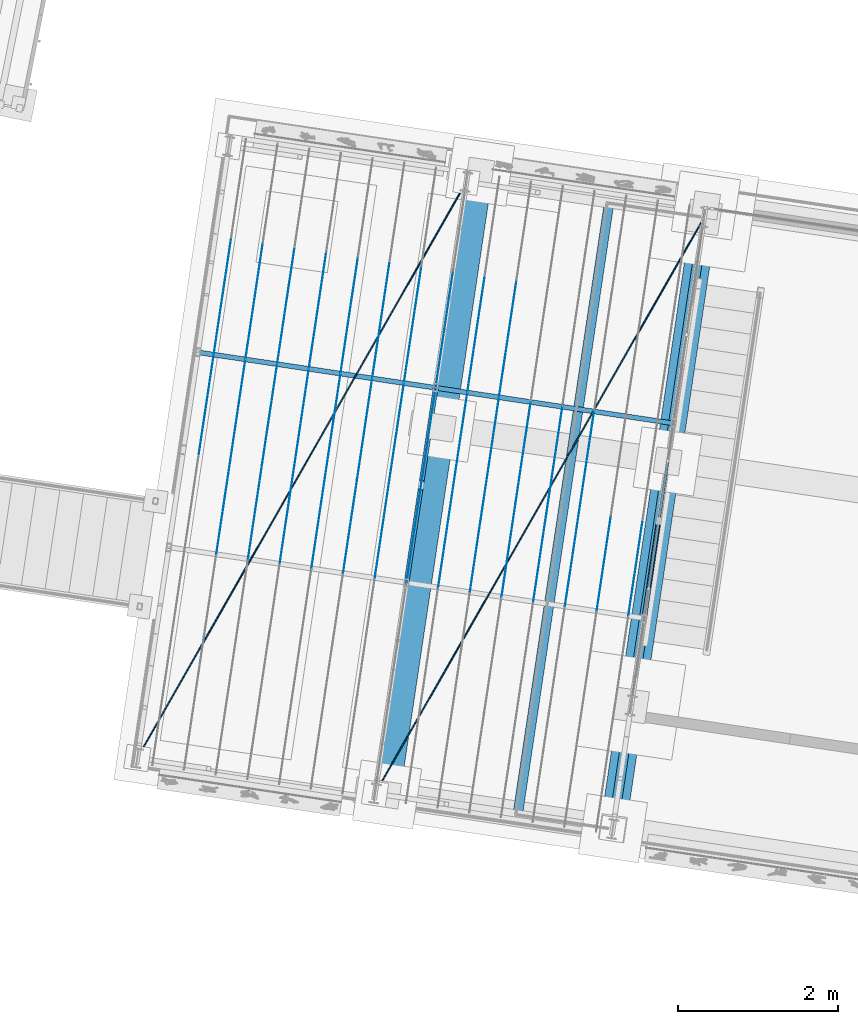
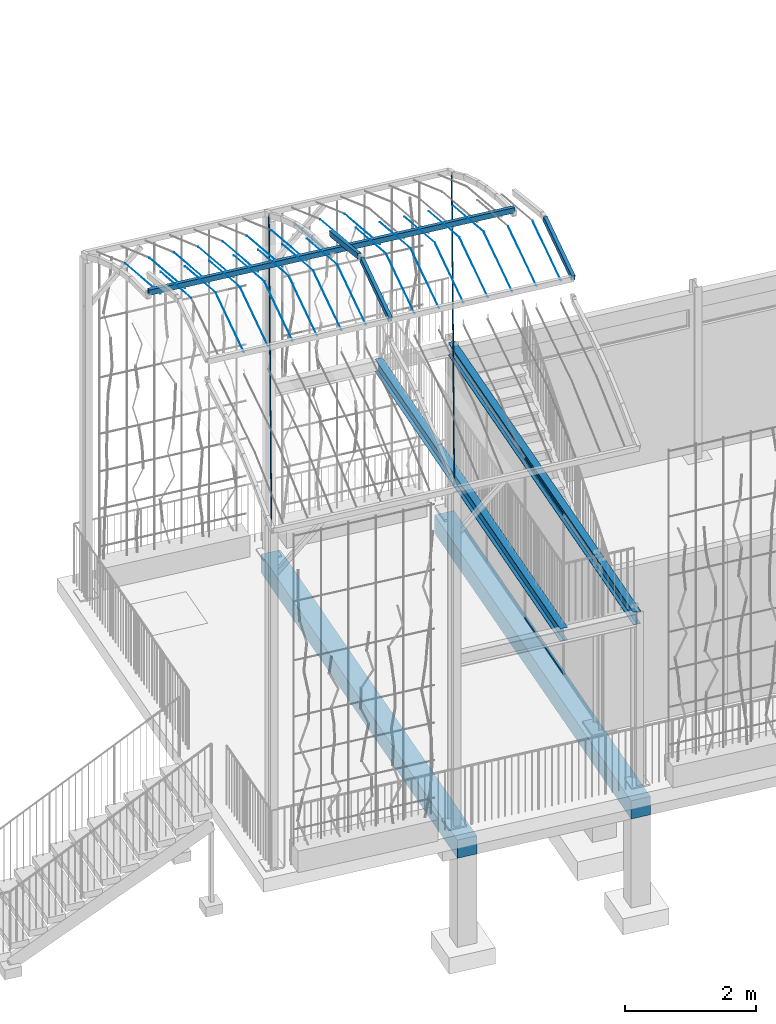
# One storey, part 28 of 142: 44 members, 5 beams, 2 elements without a shape of their own.
"""IFC4 building model written with IfcOpenShell, lengths in metres."""

from ifc_helpers import new_model, si_unit, direction, frame, origin_with_axes, place, context, subcontext, project, spatial, polyline, rectangle, hollow_rectangle, circle, i_section, outline, extrude, material, material_profile, profile_set, profile_usage, type_object, element, aggregate, save


model = new_model("IFC4")

# Units and contexts
model_context = context("Model", 3, precision=1e-05, world=origin_with_axes(), true_north=direction((0.0, 1.0)))
body_context = subcontext(model_context, "Body", "Model", "MODEL_VIEW")
ifc_project = project(units=[si_unit("LENGTHUNIT", "METRE"), si_unit("AREAUNIT", "SQUARE_METRE"), si_unit("VOLUMEUNIT", "CUBIC_METRE")], contexts=[model_context])

# Site, building, storey
site_placement = place(None, origin_with_axes())
site = spatial("IfcSite", under=ifc_project, at=site_placement, Name="Lares · Rua das Mercês · artigo 4771")
building_placement = place(site_placement, frame((15.0, 9.7, 14.65), z_axis=(0.0, 0.0, 1.0), x_axis=(0.989015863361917, -0.147809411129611, 0.0)))
building = spatial("IfcBuilding", under=site, at=building_placement, Name="Casa Sobreposta")
storey_placement = place(building_placement, origin_with_axes())
storey = spatial("IfcBuildingStorey", under=building, at=storey_placement, Name="00 · Habitação e estacionamento", Elevation=14.65)

# Assembly, beams
assembly_1_placement = place(storey_placement, origin_with_axes())
assembly_1 = element("IfcElementAssembly", 1, at=assembly_1_placement, inside=storey, Name="Pérgola · prolongamento da estufa 6 m", ObjectType="PERGOLA_GREENHOUSE_EXTENSION", PredefinedType="USERDEFINED")
ifc_material_1 = material(Name="Aço pintado / Stahl lackiert", Category="steel")
ifc_material_profile_1 = material_profile(ifc_material_1, i_section(OverallWidth=0.12, OverallDepth=0.24, WebThickness=0.0062, FlangeThickness=0.0098))
ifc_profile_set_1 = profile_set([ifc_material_profile_1], Name="IPE240")
ifc_profile_usage_1 = profile_usage(ifc_profile_set_1)
beam_type_1 = type_object("IfcBeamType", Name="IPE240 / steel", PredefinedType="NOTDEFINED", material=ifc_profile_set_1)
beam_1_placement = place(assembly_1_placement, frame((-1.2, -1.44, 3.02), z_axis=(0.0, 1.0, 0.0), x_axis=(1.0, 0.0, 0.0)))
beam_1 = element("IfcBeam", 2, at=beam_1_placement, type_object=beam_type_1, material=ifc_profile_usage_1, Name="Varanda · viga transversal", context=body_context, shape_type="SweptSolid", body=[
    extrude(i_section(OverallWidth=0.12, OverallDepth=0.24, WebThickness=0.0062, FlangeThickness=0.0098), origin_with_axes(), (0.0, 0.0, 1.0), 7.72),
])
ifc_profile_usage_2 = profile_usage(ifc_profile_set_1)
beam_2_placement = place(assembly_1_placement, frame((0.0, -1.44, 3.02), z_axis=(0.0, 1.0, 0.0), x_axis=(1.0, 0.0, 0.0)))
beam_2 = element("IfcBeam", 3, at=beam_2_placement, type_object=beam_type_1, material=ifc_profile_usage_2, Name="Varanda · viga transversal", context=body_context, shape_type="SweptSolid", body=[
    extrude(i_section(OverallWidth=0.12, OverallDepth=0.24, WebThickness=0.0062, FlangeThickness=0.0098), origin_with_axes(), (0.0, 0.0, 1.0), 7.72),
])

# Members
ifc_material_profile_2 = material_profile(ifc_material_1, rectangle(XDim=0.035, YDim=0.035))
ifc_profile_set_2 = profile_set([ifc_material_profile_2], Name="R0.035")
ifc_profile_usage_3 = profile_usage(ifc_profile_set_2)
member_type_1 = type_object("IfcMemberType", Name="R0.035 / steel", PredefinedType="NOTDEFINED", material=ifc_profile_set_2)
member_1_placement = place(storey_placement, frame((0.0, 1.6, 0.0), z_axis=(0.0, 1.0, 0.0), x_axis=(1.0, 0.0, 0.0)))
element("IfcMember", 4, at=member_1_placement, inside=storey, type_object=member_type_1, material=ifc_profile_usage_3, Name="Fachada poente integralmente envidraçada · módulo 2 · travessa", context=body_context, shape_type="SweptSolid", body=[
    extrude(rectangle(XDim=0.035, YDim=0.035), origin_with_axes(), (0.0, 0.0, 1.0), 1.6),
])
ifc_profile_usage_4 = profile_usage(ifc_profile_set_2)
member_2_placement = place(storey_placement, frame((0.0, 1.6, 2.968), z_axis=(0.0, 1.0, 0.0), x_axis=(1.0, 0.0, 0.0)))
element("IfcMember", 5, at=member_2_placement, inside=storey, type_object=member_type_1, material=ifc_profile_usage_4, Name="Fachada poente integralmente envidraçada · módulo 2 · travessa", context=body_context, shape_type="SweptSolid", body=[
    extrude(rectangle(XDim=0.035, YDim=0.035), origin_with_axes(), (0.0, 0.0, 1.0), 1.6),
])

# Member
ifc_material_profile_3 = material_profile(ifc_material_1, hollow_rectangle(XDim=0.06, YDim=0.1, WallThickness=0.004))
ifc_profile_set_3 = profile_set([ifc_material_profile_3], Name="RHS100x60x4")
ifc_profile_usage_5 = profile_usage(ifc_profile_set_3)
member_type_2 = type_object("IfcMemberType", Name="RHS100x60x4 / steel", PredefinedType="NOTDEFINED", material=ifc_profile_set_3)
member_3_placement = place(assembly_1_placement, frame((-3.0, 1.22042020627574, 7.62067689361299), z_axis=(0.0, 0.960073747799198, 0.279747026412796), x_axis=(1.0, 0.0, 0.0)))
member_3 = element("IfcMember", 6, at=member_3_placement, type_object=member_type_2, material=ifc_profile_usage_5, Name="Pérgola · arco contínuo com a estufa", context=body_context, shape_type="SweptSolid", body=[
    extrude(hollow_rectangle(XDim=0.06, YDim=0.1, WallThickness=0.004), origin_with_axes(), (0.0, 0.0, 1.0), 1.23148937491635),
])

ifc_profile_usage_6 = profile_usage(ifc_profile_set_3)
member_4_placement = place(assembly_1_placement, frame((-3.0, 2.49770027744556, 7.96518238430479), z_axis=(0.0, 0.96007374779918, -0.279747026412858), x_axis=(1.0, 0.0, 0.0)))
member_4 = element("IfcMember", 7, at=member_4_placement, type_object=member_type_2, material=ifc_profile_usage_6, Name="Pérgola · arco contínuo com a estufa", context=body_context, shape_type="SweptSolid", body=[
    extrude(hollow_rectangle(XDim=0.06, YDim=0.1, WallThickness=0.004), origin_with_axes(), (0.0, 0.0, 1.0), 1.23148937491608),
])

ifc_profile_usage_7 = profile_usage(ifc_profile_set_3)
member_5_placement = place(assembly_1_placement, frame((0.0, 1.22042020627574, 7.62067689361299), z_axis=(0.0, 0.960073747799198, 0.279747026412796), x_axis=(1.0, 0.0, 0.0)))
member_5 = element("IfcMember", 8, at=member_5_placement, type_object=member_type_2, material=ifc_profile_usage_7, Name="Pérgola · arco contínuo com a estufa", context=body_context, shape_type="SweptSolid", body=[
    extrude(hollow_rectangle(XDim=0.06, YDim=0.1, WallThickness=0.004), origin_with_axes(), (0.0, 0.0, 1.0), 1.23148937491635),
])

# Beam
ifc_material_profile_4 = material_profile(ifc_material_1, hollow_rectangle(XDim=0.06, YDim=0.1, WallThickness=0.004))
ifc_profile_set_4 = profile_set([ifc_material_profile_4], Name="RHS100x60x4")
ifc_profile_usage_8 = profile_usage(ifc_profile_set_4)
beam_type_2 = type_object("IfcBeamType", Name="RHS100x60x4 / steel", PredefinedType="NOTDEFINED", material=ifc_profile_set_4)
beam_3_placement = place(assembly_1_placement, frame((-6.0, 3.68002089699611, 7.30067689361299), z_axis=(1.0, 0.0, 0.0), x_axis=(0.0, -1.0, 0.0)))
beam_3 = element("IfcBeam", 9, at=beam_3_placement, type_object=beam_type_2, material=ifc_profile_usage_8, Name="Pérgola · terça", context=body_context, shape_type="SweptSolid", body=[
    extrude(hollow_rectangle(XDim=0.06, YDim=0.1, WallThickness=0.004), origin_with_axes(), (0.0, 0.0, 1.0), 6.0),
])

# Member
ifc_material_profile_5 = material_profile(ifc_material_1, circle(Radius=0.008))
ifc_profile_set_5 = profile_set([ifc_material_profile_5], Name="D0.016")
ifc_profile_usage_9 = profile_usage(ifc_profile_set_5)
member_type_3 = type_object("IfcMemberType", Name="D0.016 / steel", PredefinedType="NOTDEFINED", material=ifc_profile_set_5)
member_6_placement = place(assembly_1_placement, frame((-6.0, -1.44, 6.28), z_axis=(0.362213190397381, 0.932095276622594, 0.0), x_axis=(0.932095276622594, -0.362213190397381, 0.0)))
member_6 = element("IfcMember", 10, at=member_6_placement, type_object=member_type_3, material=ifc_profile_usage_9, Name="Pérgola · tirante em cobertura", context=body_context, shape_type="SweptSolid", body=[
    extrude(circle(Radius=0.008), origin_with_axes(), (0.0, 0.0, 1.0), 8.28241510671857),
])

ifc_profile_usage_10 = profile_usage(ifc_profile_set_5)
member_7_placement = place(assembly_1_placement, frame((-3.0, -1.44, 6.28), z_axis=(0.362213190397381, 0.932095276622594, 0.0), x_axis=(0.932095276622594, -0.362213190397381, 0.0)))
member_7 = element("IfcMember", 11, at=member_7_placement, type_object=member_type_3, material=ifc_profile_usage_10, Name="Pérgola · tirante em cobertura", context=body_context, shape_type="SweptSolid", body=[
    extrude(circle(Radius=0.008), origin_with_axes(), (0.0, 0.0, 1.0), 8.28241510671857),
])

ifc_material_2 = material(Name="Aço galvanizado / Stahl verzinkt", Category="steel")
ifc_material_profile_6 = material_profile(ifc_material_2, circle(Radius=0.002))
ifc_profile_set_6 = profile_set([ifc_material_profile_6], Name="D0.004")
ifc_profile_usage_11 = profile_usage(ifc_profile_set_6)
member_type_4 = type_object("IfcMemberType", Name="D0.004 / galvanized", PredefinedType="NOTDEFINED", material=ifc_profile_set_6)
member_8_placement = place(assembly_1_placement, frame((-5.8, 2.40274082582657, 7.96518238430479), z_axis=(0.0, 0.965497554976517, -0.260412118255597), x_axis=(1.0, 0.0, 0.0)))
member_8 = element("IfcMember", 12, at=member_8_placement, type_object=member_type_4, material=ifc_profile_usage_11, Name="Pérgola · fio para trepadeiras", context=body_context, shape_type="SweptSolid", body=[
    extrude(circle(Radius=0.002), origin_with_axes(), (0.0, 0.0, 1.0), 1.32292419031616),
])

ifc_profile_usage_12 = profile_usage(ifc_profile_set_6)
member_9_placement = place(assembly_1_placement, frame((-5.8, 3.68573096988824, 7.21327919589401), z_axis=(0.0, 0.965357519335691, -0.260930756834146), x_axis=(1.0, 0.0, 0.0)))
member_9 = element("IfcMember", 13, at=member_9_placement, type_object=member_type_4, material=ifc_profile_usage_12, Name="Pérgola · fio para trepadeiras", context=body_context, shape_type="SweptSolid", body=[
    extrude(circle(Radius=0.002), origin_with_axes(), (0.0, 0.0, 1.0), 1.523553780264),
])

ifc_profile_usage_13 = profile_usage(ifc_profile_set_6)
member_10_placement = place(assembly_1_placement, frame((-5.4, 1.22042020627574, 7.62067689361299), z_axis=(0.0, 0.960073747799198, 0.279747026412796), x_axis=(1.0, 0.0, 0.0)))
member_10 = element("IfcMember", 14, at=member_10_placement, type_object=member_type_4, material=ifc_profile_usage_13, Name="Pérgola · fio para trepadeiras", context=body_context, shape_type="SweptSolid", body=[
    extrude(circle(Radius=0.002), origin_with_axes(), (0.0, 0.0, 1.0), 1.23148937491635),
])

ifc_profile_usage_14 = profile_usage(ifc_profile_set_6)
member_11_placement = place(assembly_1_placement, frame((-5.4, 2.40274082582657, 7.96518238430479), z_axis=(0.0, 0.965497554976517, -0.260412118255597), x_axis=(1.0, 0.0, 0.0)))
member_11 = element("IfcMember", 15, at=member_11_placement, type_object=member_type_4, material=ifc_profile_usage_14, Name="Pérgola · fio para trepadeiras", context=body_context, shape_type="SweptSolid", body=[
    extrude(circle(Radius=0.002), origin_with_axes(), (0.0, 0.0, 1.0), 1.32292419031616),
])

ifc_profile_usage_15 = profile_usage(ifc_profile_set_6)
member_12_placement = place(assembly_1_placement, frame((-5.4, 3.68573096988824, 7.21327919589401), z_axis=(0.0, 0.965357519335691, -0.260930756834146), x_axis=(1.0, 0.0, 0.0)))
member_12 = element("IfcMember", 16, at=member_12_placement, type_object=member_type_4, material=ifc_profile_usage_15, Name="Pérgola · fio para trepadeiras", context=body_context, shape_type="SweptSolid", body=[
    extrude(circle(Radius=0.002), origin_with_axes(), (0.0, 0.0, 1.0), 1.523553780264),
])

ifc_profile_usage_16 = profile_usage(ifc_profile_set_6)
member_13_placement = place(assembly_1_placement, frame((-5.0, 1.22042020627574, 7.62067689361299), z_axis=(0.0, 0.960073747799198, 0.279747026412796), x_axis=(1.0, 0.0, 0.0)))
member_13 = element("IfcMember", 17, at=member_13_placement, type_object=member_type_4, material=ifc_profile_usage_16, Name="Pérgola · fio para trepadeiras", context=body_context, shape_type="SweptSolid", body=[
    extrude(circle(Radius=0.002), origin_with_axes(), (0.0, 0.0, 1.0), 1.23148937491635),
])

ifc_profile_usage_17 = profile_usage(ifc_profile_set_6)
member_14_placement = place(assembly_1_placement, frame((-5.0, 2.40274082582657, 7.96518238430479), z_axis=(0.0, 0.965497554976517, -0.260412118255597), x_axis=(1.0, 0.0, 0.0)))
member_14 = element("IfcMember", 18, at=member_14_placement, type_object=member_type_4, material=ifc_profile_usage_17, Name="Pérgola · fio para trepadeiras", context=body_context, shape_type="SweptSolid", body=[
    extrude(circle(Radius=0.002), origin_with_axes(), (0.0, 0.0, 1.0), 1.32292419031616),
])

ifc_profile_usage_18 = profile_usage(ifc_profile_set_6)
member_15_placement = place(assembly_1_placement, frame((-5.0, 3.68573096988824, 7.21327919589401), z_axis=(0.0, 0.965357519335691, -0.260930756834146), x_axis=(1.0, 0.0, 0.0)))
member_15 = element("IfcMember", 19, at=member_15_placement, type_object=member_type_4, material=ifc_profile_usage_18, Name="Pérgola · fio para trepadeiras", context=body_context, shape_type="SweptSolid", body=[
    extrude(circle(Radius=0.002), origin_with_axes(), (0.0, 0.0, 1.0), 1.523553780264),
])

ifc_profile_usage_19 = profile_usage(ifc_profile_set_6)
member_16_placement = place(assembly_1_placement, frame((-4.6, 1.22042020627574, 7.62067689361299), z_axis=(0.0, 0.960073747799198, 0.279747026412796), x_axis=(1.0, 0.0, 0.0)))
member_16 = element("IfcMember", 20, at=member_16_placement, type_object=member_type_4, material=ifc_profile_usage_19, Name="Pérgola · fio para trepadeiras", context=body_context, shape_type="SweptSolid", body=[
    extrude(circle(Radius=0.002), origin_with_axes(), (0.0, 0.0, 1.0), 1.23148937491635),
])

ifc_profile_usage_20 = profile_usage(ifc_profile_set_6)
member_17_placement = place(assembly_1_placement, frame((-4.6, 2.40274082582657, 7.96518238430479), z_axis=(0.0, 0.965497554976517, -0.260412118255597), x_axis=(1.0, 0.0, 0.0)))
member_17 = element("IfcMember", 21, at=member_17_placement, type_object=member_type_4, material=ifc_profile_usage_20, Name="Pérgola · fio para trepadeiras", context=body_context, shape_type="SweptSolid", body=[
    extrude(circle(Radius=0.002), origin_with_axes(), (0.0, 0.0, 1.0), 1.32292419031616),
])

ifc_profile_usage_21 = profile_usage(ifc_profile_set_6)
member_18_placement = place(assembly_1_placement, frame((-4.6, 3.68573096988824, 7.21327919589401), z_axis=(0.0, 0.965357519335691, -0.260930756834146), x_axis=(1.0, 0.0, 0.0)))
member_18 = element("IfcMember", 22, at=member_18_placement, type_object=member_type_4, material=ifc_profile_usage_21, Name="Pérgola · fio para trepadeiras", context=body_context, shape_type="SweptSolid", body=[
    extrude(circle(Radius=0.002), origin_with_axes(), (0.0, 0.0, 1.0), 1.523553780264),
])

ifc_profile_usage_22 = profile_usage(ifc_profile_set_6)
member_19_placement = place(assembly_1_placement, frame((-4.2, 1.22042020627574, 7.62067689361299), z_axis=(0.0, 0.960073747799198, 0.279747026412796), x_axis=(1.0, 0.0, 0.0)))
member_19 = element("IfcMember", 23, at=member_19_placement, type_object=member_type_4, material=ifc_profile_usage_22, Name="Pérgola · fio para trepadeiras", context=body_context, shape_type="SweptSolid", body=[
    extrude(circle(Radius=0.002), origin_with_axes(), (0.0, 0.0, 1.0), 1.23148937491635),
])

ifc_profile_usage_23 = profile_usage(ifc_profile_set_6)
member_20_placement = place(assembly_1_placement, frame((-4.2, 2.40274082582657, 7.96518238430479), z_axis=(0.0, 0.965497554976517, -0.260412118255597), x_axis=(1.0, 0.0, 0.0)))
member_20 = element("IfcMember", 24, at=member_20_placement, type_object=member_type_4, material=ifc_profile_usage_23, Name="Pérgola · fio para trepadeiras", context=body_context, shape_type="SweptSolid", body=[
    extrude(circle(Radius=0.002), origin_with_axes(), (0.0, 0.0, 1.0), 1.32292419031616),
])

ifc_profile_usage_24 = profile_usage(ifc_profile_set_6)
member_21_placement = place(assembly_1_placement, frame((-4.2, 3.68573096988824, 7.21327919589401), z_axis=(0.0, 0.965357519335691, -0.260930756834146), x_axis=(1.0, 0.0, 0.0)))
member_21 = element("IfcMember", 25, at=member_21_placement, type_object=member_type_4, material=ifc_profile_usage_24, Name="Pérgola · fio para trepadeiras", context=body_context, shape_type="SweptSolid", body=[
    extrude(circle(Radius=0.002), origin_with_axes(), (0.0, 0.0, 1.0), 1.523553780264),
])

ifc_profile_usage_25 = profile_usage(ifc_profile_set_6)
member_22_placement = place(assembly_1_placement, frame((-3.8, 1.22042020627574, 7.62067689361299), z_axis=(0.0, 0.960073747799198, 0.279747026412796), x_axis=(1.0, 0.0, 0.0)))
member_22 = element("IfcMember", 26, at=member_22_placement, type_object=member_type_4, material=ifc_profile_usage_25, Name="Pérgola · fio para trepadeiras", context=body_context, shape_type="SweptSolid", body=[
    extrude(circle(Radius=0.002), origin_with_axes(), (0.0, 0.0, 1.0), 1.23148937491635),
])

ifc_profile_usage_26 = profile_usage(ifc_profile_set_6)
member_23_placement = place(assembly_1_placement, frame((-3.8, 2.40274082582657, 7.96518238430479), z_axis=(0.0, 0.965497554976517, -0.260412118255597), x_axis=(1.0, 0.0, 0.0)))
member_23 = element("IfcMember", 27, at=member_23_placement, type_object=member_type_4, material=ifc_profile_usage_26, Name="Pérgola · fio para trepadeiras", context=body_context, shape_type="SweptSolid", body=[
    extrude(circle(Radius=0.002), origin_with_axes(), (0.0, 0.0, 1.0), 1.32292419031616),
])

ifc_profile_usage_27 = profile_usage(ifc_profile_set_6)
member_24_placement = place(assembly_1_placement, frame((-3.8, 3.68573096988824, 7.21327919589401), z_axis=(0.0, 0.965357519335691, -0.260930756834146), x_axis=(1.0, 0.0, 0.0)))
member_24 = element("IfcMember", 28, at=member_24_placement, type_object=member_type_4, material=ifc_profile_usage_27, Name="Pérgola · fio para trepadeiras", context=body_context, shape_type="SweptSolid", body=[
    extrude(circle(Radius=0.002), origin_with_axes(), (0.0, 0.0, 1.0), 1.523553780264),
])

ifc_profile_usage_28 = profile_usage(ifc_profile_set_6)
member_25_placement = place(assembly_1_placement, frame((-3.4, 1.22042020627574, 7.62067689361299), z_axis=(0.0, 0.960073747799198, 0.279747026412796), x_axis=(1.0, 0.0, 0.0)))
member_25 = element("IfcMember", 29, at=member_25_placement, type_object=member_type_4, material=ifc_profile_usage_28, Name="Pérgola · fio para trepadeiras", context=body_context, shape_type="SweptSolid", body=[
    extrude(circle(Radius=0.002), origin_with_axes(), (0.0, 0.0, 1.0), 1.23148937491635),
])

ifc_profile_usage_29 = profile_usage(ifc_profile_set_6)
member_26_placement = place(assembly_1_placement, frame((-3.4, 2.40274082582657, 7.96518238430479), z_axis=(0.0, 0.965497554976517, -0.260412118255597), x_axis=(1.0, 0.0, 0.0)))
member_26 = element("IfcMember", 30, at=member_26_placement, type_object=member_type_4, material=ifc_profile_usage_29, Name="Pérgola · fio para trepadeiras", context=body_context, shape_type="SweptSolid", body=[
    extrude(circle(Radius=0.002), origin_with_axes(), (0.0, 0.0, 1.0), 1.32292419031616),
])

ifc_profile_usage_30 = profile_usage(ifc_profile_set_6)
member_27_placement = place(assembly_1_placement, frame((-3.4, 3.68573096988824, 7.21327919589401), z_axis=(0.0, 0.965357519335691, -0.260930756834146), x_axis=(1.0, 0.0, 0.0)))
member_27 = element("IfcMember", 31, at=member_27_placement, type_object=member_type_4, material=ifc_profile_usage_30, Name="Pérgola · fio para trepadeiras", context=body_context, shape_type="SweptSolid", body=[
    extrude(circle(Radius=0.002), origin_with_axes(), (0.0, 0.0, 1.0), 1.523553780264),
])

ifc_profile_usage_31 = profile_usage(ifc_profile_set_6)
member_28_placement = place(assembly_1_placement, frame((-3.0, 1.22042020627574, 7.62067689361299), z_axis=(0.0, 0.960073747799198, 0.279747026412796), x_axis=(1.0, 0.0, 0.0)))
member_28 = element("IfcMember", 32, at=member_28_placement, type_object=member_type_4, material=ifc_profile_usage_31, Name="Pérgola · fio para trepadeiras", context=body_context, shape_type="SweptSolid", body=[
    extrude(circle(Radius=0.002), origin_with_axes(), (0.0, 0.0, 1.0), 1.23148937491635),
])

ifc_profile_usage_32 = profile_usage(ifc_profile_set_6)
member_29_placement = place(assembly_1_placement, frame((-3.0, 2.40274082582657, 7.96518238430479), z_axis=(0.0, 0.965497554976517, -0.260412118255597), x_axis=(1.0, 0.0, 0.0)))
member_29 = element("IfcMember", 33, at=member_29_placement, type_object=member_type_4, material=ifc_profile_usage_32, Name="Pérgola · fio para trepadeiras", context=body_context, shape_type="SweptSolid", body=[
    extrude(circle(Radius=0.002), origin_with_axes(), (0.0, 0.0, 1.0), 1.32292419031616),
])

ifc_profile_usage_33 = profile_usage(ifc_profile_set_6)
member_30_placement = place(assembly_1_placement, frame((-3.0, 3.68573096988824, 7.21327919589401), z_axis=(0.0, 0.965357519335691, -0.260930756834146), x_axis=(1.0, 0.0, 0.0)))
member_30 = element("IfcMember", 34, at=member_30_placement, type_object=member_type_4, material=ifc_profile_usage_33, Name="Pérgola · fio para trepadeiras", context=body_context, shape_type="SweptSolid", body=[
    extrude(circle(Radius=0.002), origin_with_axes(), (0.0, 0.0, 1.0), 1.523553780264),
])

ifc_profile_usage_34 = profile_usage(ifc_profile_set_6)
member_31_placement = place(assembly_1_placement, frame((-2.6, 1.22042020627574, 7.62067689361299), z_axis=(0.0, 0.960073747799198, 0.279747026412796), x_axis=(1.0, 0.0, 0.0)))
member_31 = element("IfcMember", 35, at=member_31_placement, type_object=member_type_4, material=ifc_profile_usage_34, Name="Pérgola · fio para trepadeiras", context=body_context, shape_type="SweptSolid", body=[
    extrude(circle(Radius=0.002), origin_with_axes(), (0.0, 0.0, 1.0), 1.23148937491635),
])

ifc_profile_usage_35 = profile_usage(ifc_profile_set_6)
member_32_placement = place(assembly_1_placement, frame((-2.6, 2.40274082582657, 7.96518238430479), z_axis=(0.0, 0.965497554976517, -0.260412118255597), x_axis=(1.0, 0.0, 0.0)))
member_32 = element("IfcMember", 36, at=member_32_placement, type_object=member_type_4, material=ifc_profile_usage_35, Name="Pérgola · fio para trepadeiras", context=body_context, shape_type="SweptSolid", body=[
    extrude(circle(Radius=0.002), origin_with_axes(), (0.0, 0.0, 1.0), 1.32292419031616),
])

ifc_profile_usage_36 = profile_usage(ifc_profile_set_6)
member_33_placement = place(assembly_1_placement, frame((-2.6, 3.68573096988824, 7.21327919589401), z_axis=(0.0, 0.965357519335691, -0.260930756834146), x_axis=(1.0, 0.0, 0.0)))
member_33 = element("IfcMember", 37, at=member_33_placement, type_object=member_type_4, material=ifc_profile_usage_36, Name="Pérgola · fio para trepadeiras", context=body_context, shape_type="SweptSolid", body=[
    extrude(circle(Radius=0.002), origin_with_axes(), (0.0, 0.0, 1.0), 1.523553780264),
])

ifc_profile_usage_37 = profile_usage(ifc_profile_set_6)
member_34_placement = place(assembly_1_placement, frame((-2.2, 1.22042020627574, 7.62067689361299), z_axis=(0.0, 0.960073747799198, 0.279747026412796), x_axis=(1.0, 0.0, 0.0)))
member_34 = element("IfcMember", 38, at=member_34_placement, type_object=member_type_4, material=ifc_profile_usage_37, Name="Pérgola · fio para trepadeiras", context=body_context, shape_type="SweptSolid", body=[
    extrude(circle(Radius=0.002), origin_with_axes(), (0.0, 0.0, 1.0), 1.23148937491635),
])

ifc_profile_usage_38 = profile_usage(ifc_profile_set_6)
member_35_placement = place(assembly_1_placement, frame((-2.2, 2.40274082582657, 7.96518238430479), z_axis=(0.0, 0.965497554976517, -0.260412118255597), x_axis=(1.0, 0.0, 0.0)))
member_35 = element("IfcMember", 39, at=member_35_placement, type_object=member_type_4, material=ifc_profile_usage_38, Name="Pérgola · fio para trepadeiras", context=body_context, shape_type="SweptSolid", body=[
    extrude(circle(Radius=0.002), origin_with_axes(), (0.0, 0.0, 1.0), 1.32292419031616),
])

ifc_profile_usage_39 = profile_usage(ifc_profile_set_6)
member_36_placement = place(assembly_1_placement, frame((-2.2, 3.68573096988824, 7.21327919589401), z_axis=(0.0, 0.965357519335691, -0.260930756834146), x_axis=(1.0, 0.0, 0.0)))
member_36 = element("IfcMember", 40, at=member_36_placement, type_object=member_type_4, material=ifc_profile_usage_39, Name="Pérgola · fio para trepadeiras", context=body_context, shape_type="SweptSolid", body=[
    extrude(circle(Radius=0.002), origin_with_axes(), (0.0, 0.0, 1.0), 1.523553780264),
])

ifc_profile_usage_40 = profile_usage(ifc_profile_set_6)
member_37_placement = place(assembly_1_placement, frame((-1.8, 1.22042020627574, 7.62067689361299), z_axis=(0.0, 0.960073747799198, 0.279747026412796), x_axis=(1.0, 0.0, 0.0)))
member_37 = element("IfcMember", 41, at=member_37_placement, type_object=member_type_4, material=ifc_profile_usage_40, Name="Pérgola · fio para trepadeiras", context=body_context, shape_type="SweptSolid", body=[
    extrude(circle(Radius=0.002), origin_with_axes(), (0.0, 0.0, 1.0), 1.23148937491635),
])

ifc_profile_usage_41 = profile_usage(ifc_profile_set_6)
member_38_placement = place(assembly_1_placement, frame((-1.8, 2.40274082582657, 7.96518238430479), z_axis=(0.0, 0.965497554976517, -0.260412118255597), x_axis=(1.0, 0.0, 0.0)))
member_38 = element("IfcMember", 42, at=member_38_placement, type_object=member_type_4, material=ifc_profile_usage_41, Name="Pérgola · fio para trepadeiras", context=body_context, shape_type="SweptSolid", body=[
    extrude(circle(Radius=0.002), origin_with_axes(), (0.0, 0.0, 1.0), 1.32292419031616),
])

ifc_profile_usage_42 = profile_usage(ifc_profile_set_6)
member_39_placement = place(assembly_1_placement, frame((-1.4, 1.22042020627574, 7.62067689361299), z_axis=(0.0, 0.960073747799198, 0.279747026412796), x_axis=(1.0, 0.0, 0.0)))
member_39 = element("IfcMember", 43, at=member_39_placement, type_object=member_type_4, material=ifc_profile_usage_42, Name="Pérgola · fio para trepadeiras", context=body_context, shape_type="SweptSolid", body=[
    extrude(circle(Radius=0.002), origin_with_axes(), (0.0, 0.0, 1.0), 1.23148937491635),
])

ifc_profile_usage_43 = profile_usage(ifc_profile_set_6)
member_40_placement = place(assembly_1_placement, frame((-1.4, 2.40274082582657, 7.96518238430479), z_axis=(0.0, 0.965497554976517, -0.260412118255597), x_axis=(1.0, 0.0, 0.0)))
member_40 = element("IfcMember", 44, at=member_40_placement, type_object=member_type_4, material=ifc_profile_usage_43, Name="Pérgola · fio para trepadeiras", context=body_context, shape_type="SweptSolid", body=[
    extrude(circle(Radius=0.002), origin_with_axes(), (0.0, 0.0, 1.0), 1.32292419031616),
])

ifc_profile_usage_44 = profile_usage(ifc_profile_set_6)
member_41_placement = place(assembly_1_placement, frame((-0.999999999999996, 1.22042020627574, 7.62067689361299), z_axis=(0.0, 0.960073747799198, 0.279747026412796), x_axis=(1.0, 0.0, 0.0)))
member_41 = element("IfcMember", 45, at=member_41_placement, type_object=member_type_4, material=ifc_profile_usage_44, Name="Pérgola · fio para trepadeiras", context=body_context, shape_type="SweptSolid", body=[
    extrude(circle(Radius=0.002), origin_with_axes(), (0.0, 0.0, 1.0), 1.23148937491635),
])

ifc_profile_usage_45 = profile_usage(ifc_profile_set_6)
member_42_placement = place(assembly_1_placement, frame((-0.999999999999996, 2.40274082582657, 7.96518238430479), z_axis=(0.0, 0.965497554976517, -0.260412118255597), x_axis=(1.0, 0.0, 0.0)))
member_42 = element("IfcMember", 46, at=member_42_placement, type_object=member_type_4, material=ifc_profile_usage_45, Name="Pérgola · fio para trepadeiras", context=body_context, shape_type="SweptSolid", body=[
    extrude(circle(Radius=0.002), origin_with_axes(), (0.0, 0.0, 1.0), 1.32292419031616),
])

ifc_profile_usage_46 = profile_usage(ifc_profile_set_6)
member_43_placement = place(assembly_1_placement, frame((-0.599999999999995, 1.22042020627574, 7.62067689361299), z_axis=(0.0, 0.960073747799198, 0.279747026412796), x_axis=(1.0, 0.0, 0.0)))
member_43 = element("IfcMember", 47, at=member_43_placement, type_object=member_type_4, material=ifc_profile_usage_46, Name="Pérgola · fio para trepadeiras", context=body_context, shape_type="SweptSolid", body=[
    extrude(circle(Radius=0.002), origin_with_axes(), (0.0, 0.0, 1.0), 1.23148937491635),
])

ifc_profile_usage_47 = profile_usage(ifc_profile_set_6)
member_44_placement = place(assembly_1_placement, frame((-0.199999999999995, 1.22042020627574, 7.62067689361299), z_axis=(0.0, 0.960073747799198, 0.279747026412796), x_axis=(1.0, 0.0, 0.0)))
member_44 = element("IfcMember", 48, at=member_44_placement, type_object=member_type_4, material=ifc_profile_usage_47, Name="Pérgola · fio para trepadeiras", context=body_context, shape_type="SweptSolid", body=[
    extrude(circle(Radius=0.002), origin_with_axes(), (0.0, 0.0, 1.0), 1.23148937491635),
])

aggregate(assembly_1, [member_3, member_4, member_5, beam_3, member_6, member_7, member_8, member_9, member_10, member_11, member_12, member_13, member_14, member_15, member_16, member_17, member_18, member_19, member_20, member_21, member_22, member_23, member_24, member_25, member_26, member_27, member_28, member_29, member_30, member_31, member_32, member_33, member_34, member_35, member_36, member_37, member_38, member_39, member_40, member_41, member_42, member_43, member_44, beam_1, beam_2])

# Assembly, beams
assembly_2_placement = place(storey_placement, origin_with_axes())
assembly_2 = element("IfcElementAssembly", 49, at=assembly_2_placement, inside=storey, Name="Pódio · terraço, casa térrea e cisterna", ObjectType="CISTERN_PODIUM", PredefinedType="USERDEFINED")
ifc_material_3 = material(Name="Betão armado / Stahlbeton", Category="concrete")
beam_4_placement = place(assembly_2_placement, frame((0.0, 0.0, -0.59), z_axis=(0.0, 0.0, 1.0), x_axis=(1.0, 0.0, 0.0)))
beam_4 = element("IfcBeam", 50, at=beam_4_placement, material=ifc_material_3, Name="Pódio suspenso · viga transversal", context=body_context, shape_type="SweptSolid", body=[
    extrude(outline(polyline([(-2.69, -1.59), (-2.69, 6.59), (-3.01, 6.59), (-3.01, -1.59), (-2.69, -1.59)])), origin_with_axes(), (0.0, 0.0, 1.0), 0.34),
])
beam_5_placement = place(assembly_2_placement, frame((0.0, 0.0, -0.59), z_axis=(0.0, 0.0, 1.0), x_axis=(1.0, 0.0, 0.0)))
beam_5 = element("IfcBeam", 51, at=beam_5_placement, material=ifc_material_3, Name="Pódio suspenso · viga transversal", context=body_context, shape_type="SweptSolid", body=[
    extrude(outline(polyline([(0.16, -1.59), (0.16, 6.59), (-0.16, 6.59), (-0.16, -1.59), (0.16, -1.59)])), origin_with_axes(), (0.0, 0.0, 1.0), 0.34),
])
aggregate(assembly_2, [beam_4, beam_5])

save(model, "model.ifc")
